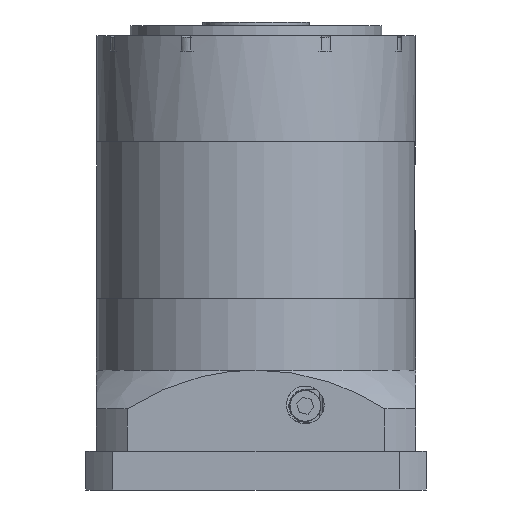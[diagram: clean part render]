
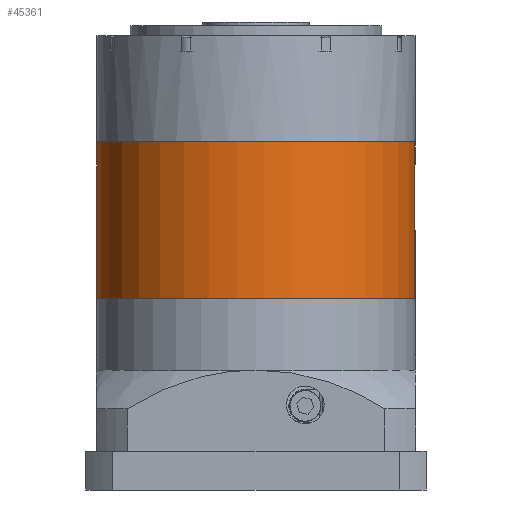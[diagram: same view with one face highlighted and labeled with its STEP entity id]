
A CAD part, front view. The second image highlights one B-rep face of the part: STEP entity #45361.
In plain terms, the highlighted cylindrical face has radius 82.5 mm (diameter 165 mm), a partial arc.
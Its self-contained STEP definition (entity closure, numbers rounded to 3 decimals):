
#2078 = AXIS2_PLACEMENT_3D ( 'NONE', #43197, #47059, #23904 ) ;
#2552 = ORIENTED_EDGE ( 'NONE', *, *, #17407, .T. ) ;
#3994 = DIRECTION ( 'NONE',  ( 0., 0., -1. ) ) ;
#5519 = CARTESIAN_POINT ( 'NONE',  ( 0., 0., -40.5 ) ) ;
#6782 = ORIENTED_EDGE ( 'NONE', *, *, #36174, .T. ) ;
#7014 = CARTESIAN_POINT ( 'NONE',  ( -82.5, 0., 40.5 ) ) ;
#7027 = CIRCLE ( 'NONE', #14606, 82.5 ) ;
#7691 = CARTESIAN_POINT ( 'NONE',  ( 82.5, 0., 40.5 ) ) ;
#9353 = DIRECTION ( 'NONE',  ( -1., 0., 0. ) ) ;
#12337 = ORIENTED_EDGE ( 'NONE', *, *, #37587, .F. ) ;
#13945 = DIRECTION ( 'NONE',  ( 0., 0., -1. ) ) ;
#14606 = AXIS2_PLACEMENT_3D ( 'NONE', #5519, #32286, #9353 ) ;
#15076 = VECTOR ( 'NONE', #30098, 1000. ) ;
#17407 = EDGE_CURVE ( 'NONE', #18991, #32992, #32246, .T. ) ;
#18231 = CYLINDRICAL_SURFACE ( 'NONE', #2078, 82.5 ) ;
#18991 = VERTEX_POINT ( 'NONE', #33038 ) ;
#21556 = ORIENTED_EDGE ( 'NONE', *, *, #49163, .T. ) ;
#22477 = VECTOR ( 'NONE', #3994, 1000. ) ;
#23904 = DIRECTION ( 'NONE',  ( -1., 0., 0. ) ) ;
#24987 = CARTESIAN_POINT ( 'NONE',  ( 82.5, 0., -40.5 ) ) ;
#25235 = LINE ( 'NONE', #7014, #15076 ) ;
#25619 = EDGE_LOOP ( 'NONE', ( #12337, #2552, #21556, #6782 ) ) ;
#30098 = DIRECTION ( 'NONE',  ( 0., 0., -1. ) ) ;
#31881 = VERTEX_POINT ( 'NONE', #24987 ) ;
#32246 = CIRCLE ( 'NONE', #48968, 82.5 ) ;
#32286 = DIRECTION ( 'NONE',  ( 0., 0., 1. ) ) ;
#32992 = VERTEX_POINT ( 'NONE', #41835 ) ;
#33038 = CARTESIAN_POINT ( 'NONE',  ( 82.5, 0., 40.5 ) ) ;
#33874 = LINE ( 'NONE', #7691, #22477 ) ;
#35810 = CARTESIAN_POINT ( 'NONE',  ( -82.5, 0., -40.5 ) ) ;
#36174 = EDGE_CURVE ( 'NONE', #37296, #31881, #7027, .T. ) ;
#36900 = CARTESIAN_POINT ( 'NONE',  ( 0., 0., 40.5 ) ) ;
#37296 = VERTEX_POINT ( 'NONE', #35810 ) ;
#37587 = EDGE_CURVE ( 'NONE', #18991, #31881, #33874, .T. ) ;
#40757 = DIRECTION ( 'NONE',  ( -1., 0., 0. ) ) ;
#41835 = CARTESIAN_POINT ( 'NONE',  ( -82.5, 0., 40.5 ) ) ;
#43197 = CARTESIAN_POINT ( 'NONE',  ( 0., 0., 40.5 ) ) ;
#45361 = ADVANCED_FACE ( 'NONE', ( #48842 ), #18231, .T. ) ;
#47059 = DIRECTION ( 'NONE',  ( 0., 0., -1. ) ) ;
#48842 = FACE_OUTER_BOUND ( 'NONE', #25619, .T. ) ;
#48968 = AXIS2_PLACEMENT_3D ( 'NONE', #36900, #13945, #40757 ) ;
#49163 = EDGE_CURVE ( 'NONE', #32992, #37296, #25235, .T. ) ;
